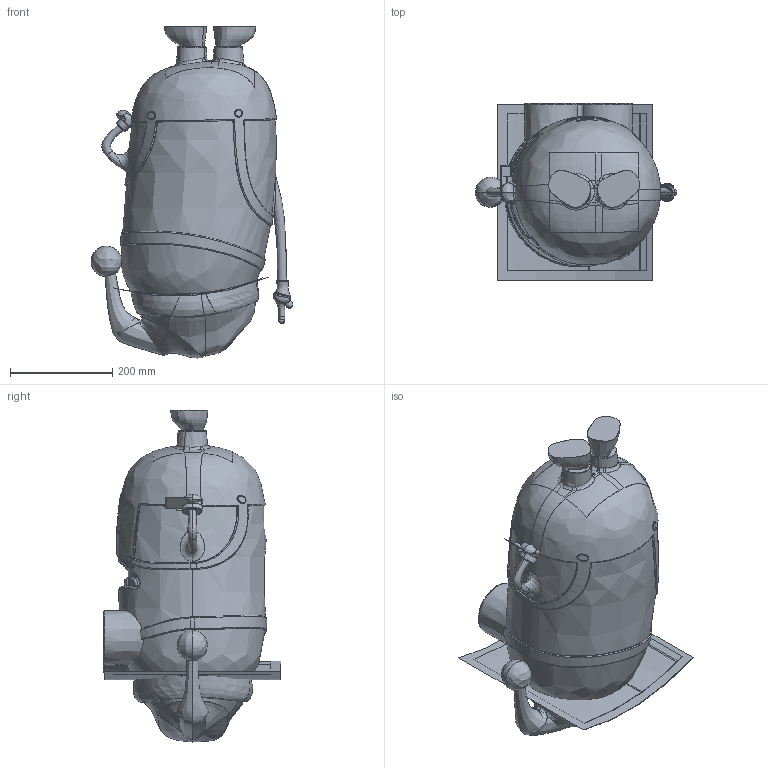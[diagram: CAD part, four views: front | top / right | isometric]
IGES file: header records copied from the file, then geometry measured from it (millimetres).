
Start section:  PTC IGES file: xiaohuangren.igs
Global section: file name: xiaohuangren.igs; native system: Pro/ENGINEER by Parametric Technology Corporation; preprocessor: 2010280; author: Administrator; organization: Unknown; date: 20140425.180848; units: millimetre
Bounding box: 394.67 x 346.64 x 649.35 mm (x, y, z)
Surface area: 1091769.5 mm2 (no closed solid volume)
Topology: 0 solids, 0 shells, 530 faces, 2883 edges, 2970 vertices
Faces by surface type: bspline 446, revolution 58, extrusion 26
